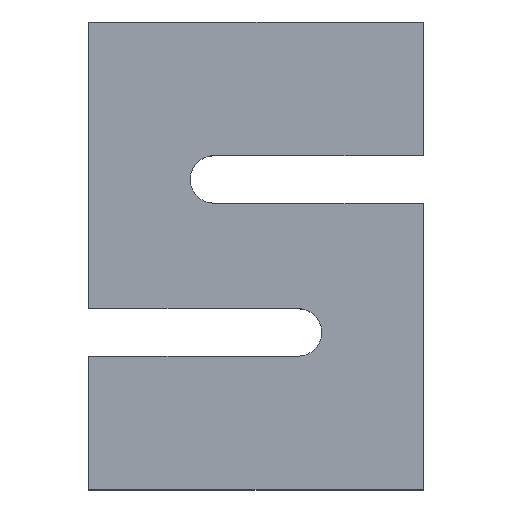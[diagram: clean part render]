
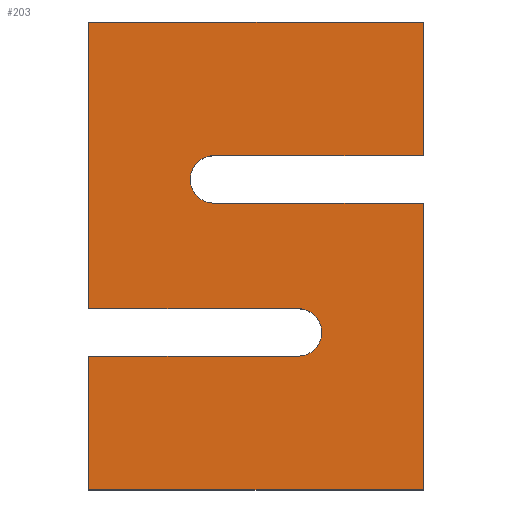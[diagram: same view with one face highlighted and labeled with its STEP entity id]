
A CAD part, top view. The second image highlights one B-rep face of the part: STEP entity #203.
In plain terms, the highlighted planar face has unit normal (0, 0, 1).
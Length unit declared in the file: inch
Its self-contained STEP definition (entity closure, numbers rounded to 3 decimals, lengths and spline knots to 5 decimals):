
#4 = VECTOR ( 'NONE', #231, 39.37008 ) ;
#10 = DIRECTION ( 'NONE',  ( 1., 0., 0. ) ) ;
#13 = DIRECTION ( 'NONE',  ( 0., -1., 0. ) ) ;
#19 = DIRECTION ( 'NONE',  ( -1., 0., 0. ) ) ;
#24 = CARTESIAN_POINT ( 'NONE',  ( 2.5, 3.5, 1. ) ) ;
#32 = ORIENTED_EDGE ( 'NONE', *, *, #542, .T. ) ;
#36 = CARTESIAN_POINT ( 'NONE',  ( -0.63, 0.79, 1. ) ) ;
#45 = CARTESIAN_POINT ( 'NONE',  ( 0.63, -0.79, 1. ) ) ;
#50 = ORIENTED_EDGE ( 'NONE', *, *, #556, .T. ) ;
#51 = VECTOR ( 'NONE', #13, 39.37008 ) ;
#59 = VERTEX_POINT ( 'NONE', #265 ) ;
#64 = EDGE_CURVE ( 'NONE', #202, #257, #522, .T. ) ;
#66 = DIRECTION ( 'NONE',  ( 0., 0., -1. ) ) ;
#67 = DIRECTION ( 'NONE',  ( 0., 1., 0. ) ) ;
#69 = LINE ( 'NONE', #611, #612 ) ;
#75 = VECTOR ( 'NONE', #481, 39.37008 ) ;
#90 = LINE ( 'NONE', #376, #387 ) ;
#101 = DIRECTION ( 'NONE',  ( 0., 0., -1. ) ) ;
#103 = ORIENTED_EDGE ( 'NONE', *, *, #667, .T. ) ;
#105 = ORIENTED_EDGE ( 'NONE', *, *, #620, .T. ) ;
#110 = CARTESIAN_POINT ( 'NONE',  ( -2.5, 3.5, 1. ) ) ;
#112 = VERTEX_POINT ( 'NONE', #321 ) ;
#119 = CARTESIAN_POINT ( 'NONE',  ( 0.63, -1.145, 1. ) ) ;
#129 = VERTEX_POINT ( 'NONE', #528 ) ;
#132 = CARTESIAN_POINT ( 'NONE',  ( 2.5, -3.5, 1. ) ) ;
#138 = CARTESIAN_POINT ( 'NONE',  ( 2.5, 0.79, 1. ) ) ;
#146 = ORIENTED_EDGE ( 'NONE', *, *, #64, .T. ) ;
#150 = VERTEX_POINT ( 'NONE', #483 ) ;
#156 = LINE ( 'NONE', #175, #4 ) ;
#162 = LINE ( 'NONE', #24, #470 ) ;
#168 = AXIS2_PLACEMENT_3D ( 'NONE', #119, #482, #10 ) ;
#175 = CARTESIAN_POINT ( 'NONE',  ( 0.63, -1.5, 1. ) ) ;
#176 = ORIENTED_EDGE ( 'NONE', *, *, #368, .T. ) ;
#179 = VERTEX_POINT ( 'NONE', #681 ) ;
#191 = CARTESIAN_POINT ( 'NONE',  ( 0.63, -1.5, 1. ) ) ;
#201 = CARTESIAN_POINT ( 'NONE',  ( -2.5, 3.5, 1. ) ) ;
#202 = VERTEX_POINT ( 'NONE', #138 ) ;
#203 = ADVANCED_FACE ( 'NONE', ( #208 ), #499, .T. ) ;
#204 = ORIENTED_EDGE ( 'NONE', *, *, #635, .T. ) ;
#208 = FACE_OUTER_BOUND ( 'NONE', #578, .T. ) ;
#213 = VECTOR ( 'NONE', #312, 39.37008 ) ;
#221 = DIRECTION ( 'NONE',  ( 0., 1., 0. ) ) ;
#231 = DIRECTION ( 'NONE',  ( -1., 0., 0. ) ) ;
#237 = DIRECTION ( 'NONE',  ( 1., 0., 0. ) ) ;
#239 = VERTEX_POINT ( 'NONE', #132 ) ;
#245 = ORIENTED_EDGE ( 'NONE', *, *, #381, .T. ) ;
#248 = EDGE_CURVE ( 'NONE', #129, #618, #69, .T. ) ;
#257 = VERTEX_POINT ( 'NONE', #36 ) ;
#258 = LINE ( 'NONE', #525, #288 ) ;
#265 = CARTESIAN_POINT ( 'NONE',  ( 2.5, 3.5, 1. ) ) ;
#269 = EDGE_CURVE ( 'NONE', #59, #455, #421, .T. ) ;
#280 = VERTEX_POINT ( 'NONE', #562 ) ;
#288 = VECTOR ( 'NONE', #221, 39.37008 ) ;
#294 = CIRCLE ( 'NONE', #378, 0.355 ) ;
#303 = EDGE_CURVE ( 'NONE', #257, #150, #294, .T. ) ;
#308 = LINE ( 'NONE', #110, #51 ) ;
#312 = DIRECTION ( 'NONE',  ( 1., 0., 0. ) ) ;
#321 = CARTESIAN_POINT ( 'NONE',  ( -2.5, -0.79, 1. ) ) ;
#325 = CARTESIAN_POINT ( 'NONE',  ( 2.5, 0.79, 1. ) ) ;
#334 = ORIENTED_EDGE ( 'NONE', *, *, #269, .T. ) ;
#335 = CIRCLE ( 'NONE', #168, 0.355 ) ;
#355 = DIRECTION ( 'NONE',  ( -1., 0., 0. ) ) ;
#361 = ORIENTED_EDGE ( 'NONE', *, *, #248, .T. ) ;
#368 = EDGE_CURVE ( 'NONE', #150, #129, #653, .T. ) ;
#376 = CARTESIAN_POINT ( 'NONE',  ( -2.5, -1.5, 1. ) ) ;
#378 = AXIS2_PLACEMENT_3D ( 'NONE', #517, #101, #466 ) ;
#379 = ORIENTED_EDGE ( 'NONE', *, *, #609, .T. ) ;
#381 = EDGE_CURVE ( 'NONE', #455, #112, #308, .T. ) ;
#387 = VECTOR ( 'NONE', #477, 39.37008 ) ;
#406 = VERTEX_POINT ( 'NONE', #191 ) ;
#421 = LINE ( 'NONE', #458, #614 ) ;
#435 = CARTESIAN_POINT ( 'NONE',  ( 2.5, 1.5, 1. ) ) ;
#436 = VERTEX_POINT ( 'NONE', #45 ) ;
#445 = CARTESIAN_POINT ( 'NONE',  ( 0.63, -1.145, 1. ) ) ;
#451 = VECTOR ( 'NONE', #19, 39.37008 ) ;
#454 = DIRECTION ( 'NONE',  ( 1., 0., 0. ) ) ;
#455 = VERTEX_POINT ( 'NONE', #201 ) ;
#458 = CARTESIAN_POINT ( 'NONE',  ( -2.5, 3.5, 1. ) ) ;
#466 = DIRECTION ( 'NONE',  ( 1., 0., 0. ) ) ;
#470 = VECTOR ( 'NONE', #67, 39.37008 ) ;
#477 = DIRECTION ( 'NONE',  ( 0., -1., 0. ) ) ;
#481 = DIRECTION ( 'NONE',  ( 1., 0., 0. ) ) ;
#482 = DIRECTION ( 'NONE',  ( 0., 0., -1. ) ) ;
#483 = CARTESIAN_POINT ( 'NONE',  ( -0.985, 1.145, 1. ) ) ;
#499 = PLANE ( 'NONE',  #551 ) ;
#509 = LINE ( 'NONE', #532, #75 ) ;
#517 = CARTESIAN_POINT ( 'NONE',  ( -0.63, 1.145, 1. ) ) ;
#522 = LINE ( 'NONE', #325, #451 ) ;
#525 = CARTESIAN_POINT ( 'NONE',  ( 2.5, 0.79, 1. ) ) ;
#528 = CARTESIAN_POINT ( 'NONE',  ( -0.63, 1.5, 1. ) ) ;
#532 = CARTESIAN_POINT ( 'NONE',  ( -2.5, -3.5, 1. ) ) ;
#536 = DIRECTION ( 'NONE',  ( 1., 0., 0. ) ) ;
#537 = AXIS2_PLACEMENT_3D ( 'NONE', #669, #66, #536 ) ;
#542 = EDGE_CURVE ( 'NONE', #239, #202, #258, .T. ) ;
#549 = DIRECTION ( 'NONE',  ( 0., 0., 1. ) ) ;
#551 = AXIS2_PLACEMENT_3D ( 'NONE', #445, #549, #237 ) ;
#556 = EDGE_CURVE ( 'NONE', #179, #280, #90, .T. ) ;
#562 = CARTESIAN_POINT ( 'NONE',  ( -2.5, -3.5, 1. ) ) ;
#563 = ORIENTED_EDGE ( 'NONE', *, *, #303, .T. ) ;
#578 = EDGE_LOOP ( 'NONE', ( #32, #146, #563, #176, #361, #103, #334, #245, #658, #105, #204, #50, #379 ) ) ;
#581 = EDGE_CURVE ( 'NONE', #112, #436, #638, .T. ) ;
#585 = CARTESIAN_POINT ( 'NONE',  ( -2.5, -0.79, 1. ) ) ;
#609 = EDGE_CURVE ( 'NONE', #280, #239, #509, .T. ) ;
#611 = CARTESIAN_POINT ( 'NONE',  ( 2.5, 1.5, 1. ) ) ;
#612 = VECTOR ( 'NONE', #454, 39.37008 ) ;
#614 = VECTOR ( 'NONE', #355, 39.37008 ) ;
#618 = VERTEX_POINT ( 'NONE', #435 ) ;
#620 = EDGE_CURVE ( 'NONE', #436, #406, #335, .T. ) ;
#635 = EDGE_CURVE ( 'NONE', #406, #179, #156, .T. ) ;
#638 = LINE ( 'NONE', #585, #213 ) ;
#653 = CIRCLE ( 'NONE', #537, 0.355 ) ;
#658 = ORIENTED_EDGE ( 'NONE', *, *, #581, .T. ) ;
#667 = EDGE_CURVE ( 'NONE', #618, #59, #162, .T. ) ;
#669 = CARTESIAN_POINT ( 'NONE',  ( -0.63, 1.145, 1. ) ) ;
#681 = CARTESIAN_POINT ( 'NONE',  ( -2.5, -1.5, 1. ) ) ;
